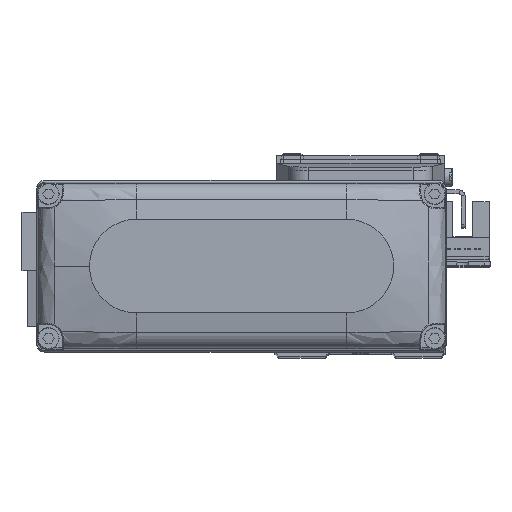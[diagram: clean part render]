
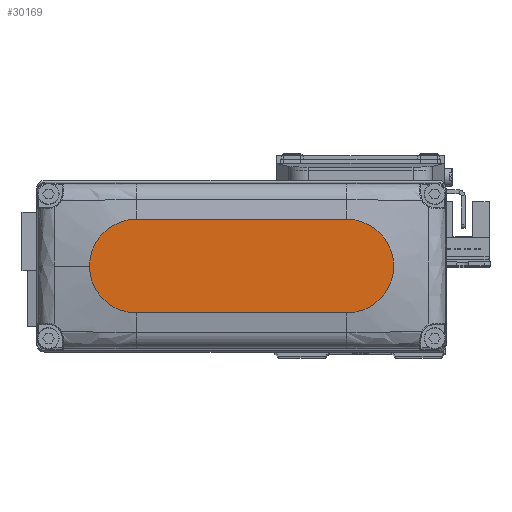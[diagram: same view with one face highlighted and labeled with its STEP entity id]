
A CAD part, top view. The second image highlights one B-rep face of the part: STEP entity #30169.
In plain terms, the highlighted planar face has unit normal (0, 0, 1).
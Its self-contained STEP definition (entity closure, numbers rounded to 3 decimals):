
#119 = CARTESIAN_POINT ( 'NONE',  ( -27., 12., 25. ) ) ;
#989 = DIRECTION ( 'NONE',  ( 1., 0., 0. ) ) ;
#1315 = CARTESIAN_POINT ( 'NONE',  ( 39., 0., 25. ) ) ;
#1612 = CARTESIAN_POINT ( 'NONE',  ( 27., 0., 25. ) ) ;
#2567 = EDGE_LOOP ( 'NONE', ( #4401, #20370, #26898, #18009, #32239 ) ) ;
#4027 = DIRECTION ( 'NONE',  ( -1., 0., 0. ) ) ;
#4259 = DIRECTION ( 'NONE',  ( 1., 0., 0. ) ) ;
#4271 = CARTESIAN_POINT ( 'NONE',  ( -27., -12., 25. ) ) ;
#4401 = ORIENTED_EDGE ( 'NONE', *, *, #21753, .T. ) ;
#4416 = DIRECTION ( 'NONE',  ( 0., 0., 1. ) ) ;
#4461 = VERTEX_POINT ( 'NONE', #119 ) ;
#5167 = CARTESIAN_POINT ( 'NONE',  ( -27., -12., 25. ) ) ;
#7281 = PLANE ( 'NONE',  #18076 ) ;
#12269 = VERTEX_POINT ( 'NONE', #5167 ) ;
#13791 = DIRECTION ( 'NONE',  ( 0., 0., 1. ) ) ;
#14717 = AXIS2_PLACEMENT_3D ( 'NONE', #31724, #4416, #16596 ) ;
#16174 = CARTESIAN_POINT ( 'NONE',  ( -27., 0., 25. ) ) ;
#16446 = DIRECTION ( 'NONE',  ( 1., 0., 0. ) ) ;
#16596 = DIRECTION ( 'NONE',  ( 1., 0., 0. ) ) ;
#18009 = ORIENTED_EDGE ( 'NONE', *, *, #19993, .T. ) ;
#18076 = AXIS2_PLACEMENT_3D ( 'NONE', #19443, #31573, #4259 ) ;
#18265 = CIRCLE ( 'NONE', #23345, 12. ) ;
#19193 = LINE ( 'NONE', #31336, #34804 ) ;
#19443 = CARTESIAN_POINT ( 'NONE',  ( 0., 0., 25. ) ) ;
#19993 = EDGE_CURVE ( 'NONE', #32067, #22659, #18265, .T. ) ;
#20370 = ORIENTED_EDGE ( 'NONE', *, *, #37684, .T. ) ;
#21548 = AXIS2_PLACEMENT_3D ( 'NONE', #16174, #28315, #989 ) ;
#21753 = EDGE_CURVE ( 'NONE', #33729, #4461, #19193, .T. ) ;
#22659 = VERTEX_POINT ( 'NONE', #1315 ) ;
#23112 = EDGE_CURVE ( 'NONE', #12269, #32067, #31581, .T. ) ;
#23345 = AXIS2_PLACEMENT_3D ( 'NONE', #1612, #13791, #25933 ) ;
#24191 = CARTESIAN_POINT ( 'NONE',  ( 27., 12., 25. ) ) ;
#25933 = DIRECTION ( 'NONE',  ( 1., 0., 0. ) ) ;
#26898 = ORIENTED_EDGE ( 'NONE', *, *, #23112, .T. ) ;
#28315 = DIRECTION ( 'NONE',  ( 0., 0., 1. ) ) ;
#30169 = ADVANCED_FACE ( 'NONE', ( #34574 ), #7281, .T. ) ;
#31336 = CARTESIAN_POINT ( 'NONE',  ( -27., 12., 25. ) ) ;
#31573 = DIRECTION ( 'NONE',  ( 0., 0., 1. ) ) ;
#31581 = LINE ( 'NONE', #4271, #32964 ) ;
#31724 = CARTESIAN_POINT ( 'NONE',  ( 27., 0., 25. ) ) ;
#31877 = CIRCLE ( 'NONE', #14717, 12. ) ;
#32067 = VERTEX_POINT ( 'NONE', #35997 ) ;
#32239 = ORIENTED_EDGE ( 'NONE', *, *, #33971, .T. ) ;
#32964 = VECTOR ( 'NONE', #16446, 1000. ) ;
#33729 = VERTEX_POINT ( 'NONE', #24191 ) ;
#33971 = EDGE_CURVE ( 'NONE', #22659, #33729, #31877, .T. ) ;
#34574 = FACE_OUTER_BOUND ( 'NONE', #2567, .T. ) ;
#34804 = VECTOR ( 'NONE', #4027, 1000. ) ;
#35997 = CARTESIAN_POINT ( 'NONE',  ( 27., -12., 25. ) ) ;
#37684 = EDGE_CURVE ( 'NONE', #4461, #12269, #38692, .T. ) ;
#38692 = CIRCLE ( 'NONE', #21548, 12. ) ;
